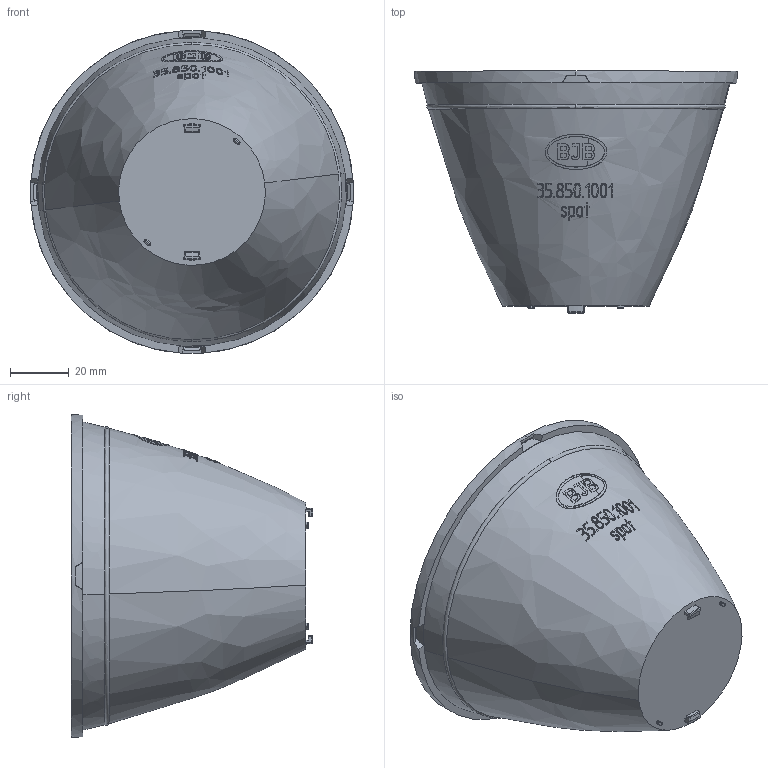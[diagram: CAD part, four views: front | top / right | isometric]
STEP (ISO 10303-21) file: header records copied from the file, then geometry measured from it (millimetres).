
FILE_DESCRIPTION(('CAx-IF Rec.Pracs.---Model Styling and Organization---1.2---2011-12-15','CAx-IF Rec.Pracs.---Geometric and Assembly Validation Properties---4.1---2014-06-16','CAx-IF Rec.Pracs.---PMI Polyline Presentation---2.0---2013-05-24'),'2;1');
FILE_NAME('022-J00-09.stp','2019-12-18T13:54:01+01:00',(''),(''),'STEP Interface 4.3 by CT CoreTechnologie','3D_Evolution4.3 by CT CoreTechnologie','');
FILE_SCHEMA(('AP203_CONFIGURATION_CONTROLLED_3D_DESIGN_OF_MECHANICAL_PARTS_AND_ASSEMBLIES_MIM_LF'));
Length unit declared in the file: millimetre
Products named in the file (1): ×ÉºÏ4
Bounding box: 110 x 82.35 x 110 mm (x, y, z)
Volume: 446934.1 mm3; surface area: 34568 mm2
Topology: 1 solids, 1 shells, 270 faces, 671 edges, 430 vertices
Faces by surface type: plane 115, bspline 107, cylinder 48
Entity records: 36201 total; most frequent: CARTESIAN_POINT 15863, PROPERTY_DEFINITION 2212, ORIENTED_EDGE 1326, SHAPE_REPRESENTATION 1107, SHAPE_DEFINITION_REPRESENTATION 1107, REPRESENTATION 1106, SHAPE_ASPECT 1106, PROPERTY_DEFINITION_REPRESENTATION 1106
